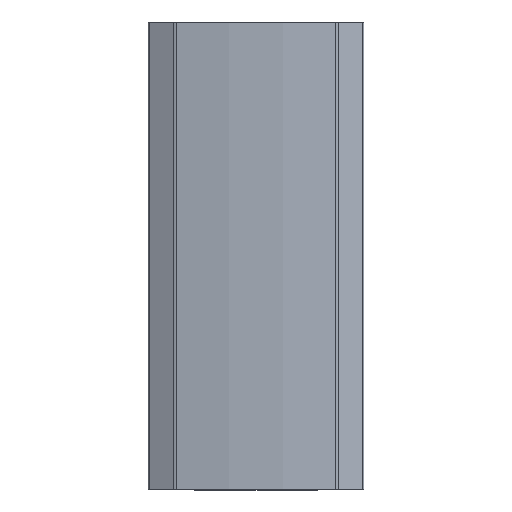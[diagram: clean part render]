
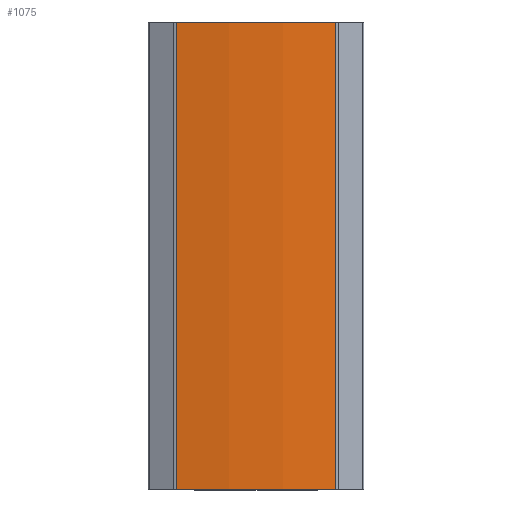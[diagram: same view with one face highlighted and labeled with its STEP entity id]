
A CAD part, top view. The second image highlights one B-rep face of the part: STEP entity #1075.
In plain terms, the highlighted cylindrical face has radius 1000 mm (diameter 2000 mm), a partial arc.
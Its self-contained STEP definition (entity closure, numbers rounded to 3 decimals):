
#308 = AXIS2_PLACEMENT_3D ( 'NONE', #4632, #994, #6658 ) ;
#334 = CARTESIAN_POINT ( 'NONE',  ( 173.108, 508., 197.628 ) ) ;
#604 = EDGE_CURVE ( 'NONE', #2025, #1353, #4818, .T. ) ;
#758 = AXIS2_PLACEMENT_3D ( 'NONE', #2680, #1113, #1604 ) ;
#973 = VECTOR ( 'NONE', #6638, 1000. ) ;
#994 = DIRECTION ( 'NONE',  ( 0., 1., 0. ) ) ;
#1075 = ADVANCED_FACE ( 'NONE', ( #6329 ), #3044, .T. ) ;
#1106 = VERTEX_POINT ( 'NONE', #5376 ) ;
#1113 = DIRECTION ( 'NONE',  ( 0., -1., 0. ) ) ;
#1215 = VERTEX_POINT ( 'NONE', #3499 ) ;
#1229 = ORIENTED_EDGE ( 'NONE', *, *, #4359, .T. ) ;
#1349 = ORIENTED_EDGE ( 'NONE', *, *, #604, .F. ) ;
#1353 = VERTEX_POINT ( 'NONE', #4205 ) ;
#1604 = DIRECTION ( 'NONE',  ( 0., 0., -1. ) ) ;
#2025 = VERTEX_POINT ( 'NONE', #3343 ) ;
#2179 = EDGE_LOOP ( 'NONE', ( #1229, #2662, #1349, #4159 ) ) ;
#2662 = ORIENTED_EDGE ( 'NONE', *, *, #4838, .F. ) ;
#2680 = CARTESIAN_POINT ( 'NONE',  ( 0., 508., -787.275 ) ) ;
#2885 = LINE ( 'NONE', #334, #6330 ) ;
#3044 = CYLINDRICAL_SURFACE ( 'NONE', #758, 1000. ) ;
#3343 = CARTESIAN_POINT ( 'NONE',  ( -173.108, 508., 197.628 ) ) ;
#3388 = CARTESIAN_POINT ( 'NONE',  ( 0., 508., -787.275 ) ) ;
#3499 = CARTESIAN_POINT ( 'NONE',  ( 173.108, -508., 197.628 ) ) ;
#4159 = ORIENTED_EDGE ( 'NONE', *, *, #5414, .T. ) ;
#4205 = CARTESIAN_POINT ( 'NONE',  ( 173.108, 508., 197.628 ) ) ;
#4359 = EDGE_CURVE ( 'NONE', #1106, #1215, #6336, .T. ) ;
#4632 = CARTESIAN_POINT ( 'NONE',  ( 0., -508., -787.275 ) ) ;
#4818 = CIRCLE ( 'NONE', #6012, 1000. ) ;
#4838 = EDGE_CURVE ( 'NONE', #1353, #1215, #2885, .T. ) ;
#4903 = DIRECTION ( 'NONE',  ( 0., 1., 0. ) ) ;
#4968 = DIRECTION ( 'NONE',  ( 0., 0., 1. ) ) ;
#5289 = LINE ( 'NONE', #6120, #973 ) ;
#5376 = CARTESIAN_POINT ( 'NONE',  ( -173.108, -508., 197.628 ) ) ;
#5414 = EDGE_CURVE ( 'NONE', #2025, #1106, #5289, .T. ) ;
#5495 = DIRECTION ( 'NONE',  ( 0., -1., 0. ) ) ;
#6012 = AXIS2_PLACEMENT_3D ( 'NONE', #3388, #4903, #4968 ) ;
#6120 = CARTESIAN_POINT ( 'NONE',  ( -173.108, 508., 197.628 ) ) ;
#6329 = FACE_OUTER_BOUND ( 'NONE', #2179, .T. ) ;
#6330 = VECTOR ( 'NONE', #5495, 1000. ) ;
#6336 = CIRCLE ( 'NONE', #308, 1000. ) ;
#6638 = DIRECTION ( 'NONE',  ( 0., -1., 0. ) ) ;
#6658 = DIRECTION ( 'NONE',  ( 0., 0., 1. ) ) ;
